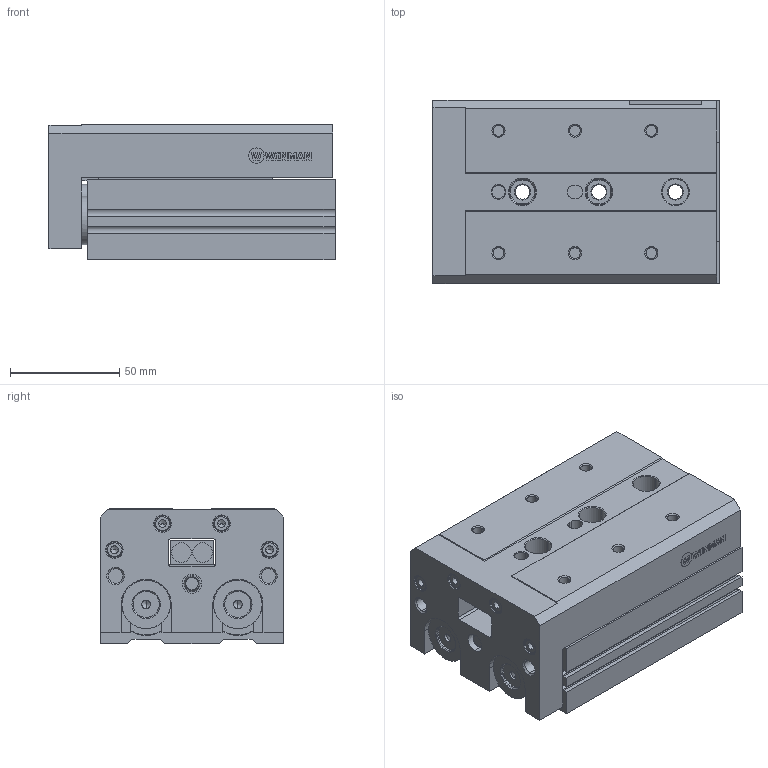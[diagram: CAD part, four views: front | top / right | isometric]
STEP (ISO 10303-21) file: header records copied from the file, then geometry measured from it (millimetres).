
FILE_DESCRIPTION (( 'STEP AP214' ), '1' );
FILE_NAME ('WLS-025-0050S (MDMY).STEP', '2017-02-11T06:59:33', ( 'Hidtek' ), ( '' ), 'SwSTEP 2.0', 'SolidWorks 2016', '' );
FILE_SCHEMA (( 'AUTOMOTIVE_DESIGN' ));
Length unit declared in the file: millimetre
Products named in the file (3): WLS-025-0050S (MDMY); WLS25X50-S(0)-rod; WLS25X50-S(0)-body
Assembly tree (2 placements, depth 2):
  WLS-025-0050S (MDMY)
    WLS25X50-S(0)-body
    WLS25X50-S(0)-rod
Bounding box: 131 x 84 x 62 mm (x, y, z)
Volume: 540725.6 mm3; surface area: 121854.5 mm2
Topology: 2 solids, 3 shells, 555 faces, 1342 edges, 842 vertices
Faces by surface type: plane 247, cylinder 188, cone 110, bspline 10
Entity records: 17335 total; most frequent: CARTESIAN_POINT 2981, DIRECTION 2887, ORIENTED_EDGE 2628, EDGE_CURVE 1314, AXIS2_PLACEMENT_3D 1038, VERTEX_POINT 840, VECTOR 811, LINE 811
